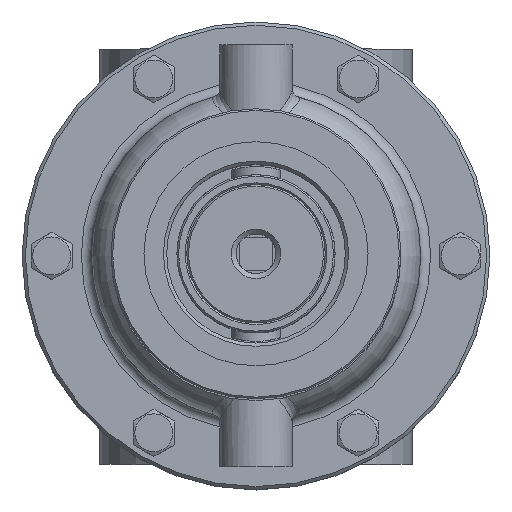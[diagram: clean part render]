
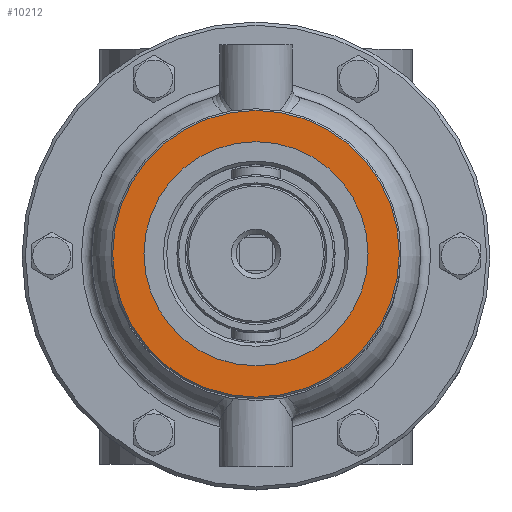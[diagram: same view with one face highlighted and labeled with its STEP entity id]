
A CAD part, top view. The second image highlights one B-rep face of the part: STEP entity #10212.
In plain terms, the highlighted planar face has unit normal (0, 0, 1).
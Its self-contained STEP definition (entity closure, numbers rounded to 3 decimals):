
#1435=PLANE('',#11373);
#1912=FACE_BOUND('',#3655,.T.);
#2600=FACE_OUTER_BOUND('',#3654,.T.);
#3654=EDGE_LOOP('',(#8749));
#3655=EDGE_LOOP('',(#8750));
#4403=CIRCLE('',#11374,43.5);
#4404=CIRCLE('',#11375,34.);
#5286=VERTEX_POINT('',#36198);
#5287=VERTEX_POINT('',#36200);
#6508=EDGE_CURVE('',#5286,#5286,#4403,.T.);
#6509=EDGE_CURVE('',#5287,#5287,#4404,.T.);
#8749=ORIENTED_EDGE('',*,*,#6508,.T.);
#8750=ORIENTED_EDGE('',*,*,#6509,.T.);
#10212=ADVANCED_FACE('',(#2600,#1912),#1435,.T.);
#11373=AXIS2_PLACEMENT_3D('',#36197,#13835,#13836);
#11374=AXIS2_PLACEMENT_3D('',#36199,#13837,#13838);
#11375=AXIS2_PLACEMENT_3D('',#36201,#13839,#13840);
#13835=DIRECTION('center_axis',(0.,0.,1.));
#13836=DIRECTION('ref_axis',(1.,0.,0.));
#13837=DIRECTION('center_axis',(0.,0.,
1.));
#13838=DIRECTION('ref_axis',(-1.,0.,0.));
#13839=DIRECTION('center_axis',(0.,0.,-1.));
#13840=DIRECTION('ref_axis',(1.,0.,0.));
#36197=CARTESIAN_POINT('Origin',(43.5,100.401,427.991));
#36198=CARTESIAN_POINT('',(0.,56.901,427.991));
#36199=CARTESIAN_POINT('Origin',(0.,100.401,
427.991));
#36200=CARTESIAN_POINT('',(-34.,100.401,427.991));
#36201=CARTESIAN_POINT('Origin',(0.,100.401,
427.991));
